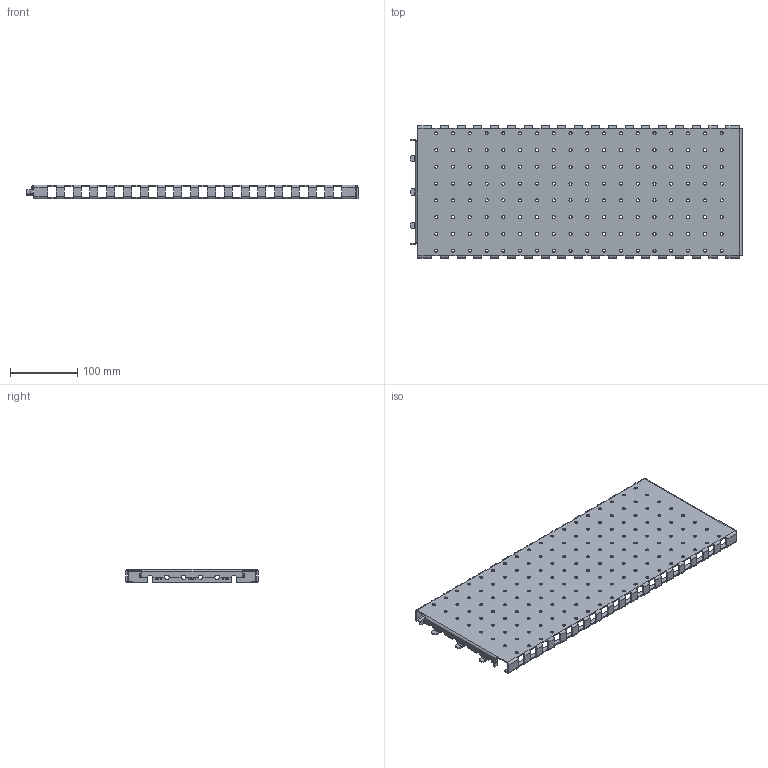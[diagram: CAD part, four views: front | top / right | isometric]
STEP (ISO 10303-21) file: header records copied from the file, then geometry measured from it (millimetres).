
FILE_DESCRIPTION(('STEP AP203'), '1');
FILE_NAME('Îãðàæäåíèå ñáîðíîé øèíû áîêîâîå ìîíòàæíîå 200õ600 ìì OptiBox M 419277 ÊÝÀÇ', '', ('UNSPECIFIED'), ('UNSPECIFIED'), 'C3D Converter', 'C3D Toolkit', '');
FILE_SCHEMA(('CONFIG_CONTROL_DESIGN'));
Length unit declared in the file: millimetre
Bounding box: 494.3 x 197 x 20 mm (x, y, z)
Volume: 222037.8 mm3; surface area: 234594.8 mm2
Topology: 1 solids, 1 shells, 638 faces, 1756 edges, 1048 vertices
Faces by surface type: cylinder 322, plane 316
Full cylindrical faces by diameter (mm): 4.6 x144, 7.3 x4
Entity records: 20036 total; most frequent: DIRECTION 3530, CARTESIAN_POINT 3295, ORIENTED_EDGE 3216, EDGE_CURVE 1608, AXIS2_PLACEMENT_3D 1283, EDGE_LOOP 1082, VERTEX_POINT 1048, LINE 964
